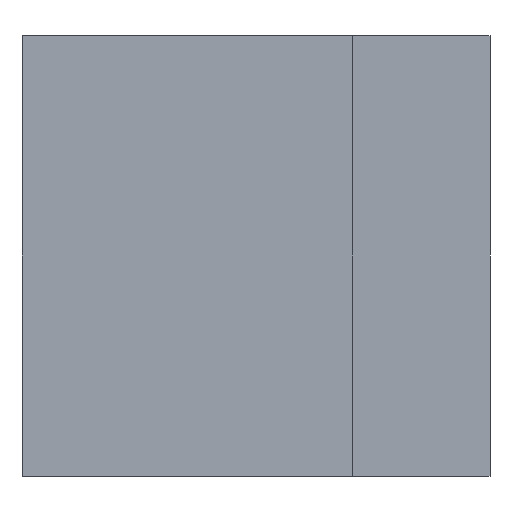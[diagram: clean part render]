
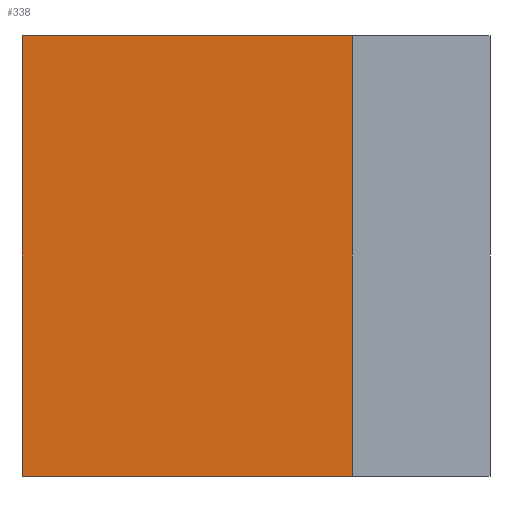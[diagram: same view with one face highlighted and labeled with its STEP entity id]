
A CAD part, front view. The second image highlights one B-rep face of the part: STEP entity #338.
In plain terms, the highlighted planar face has unit normal (0, -1, 0).
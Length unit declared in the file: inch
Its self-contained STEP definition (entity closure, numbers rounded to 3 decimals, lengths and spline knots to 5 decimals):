
#5 = VERTEX_POINT ( 'NONE', #291 ) ;
#12 = ORIENTED_EDGE ( 'NONE', *, *, #345, .T. ) ;
#14 = EDGE_LOOP ( 'NONE', ( #53, #255, #12, #387 ) ) ;
#21 = CARTESIAN_POINT ( 'NONE',  ( 0., 0., -1. ) ) ;
#44 = VERTEX_POINT ( 'NONE', #136 ) ;
#53 = ORIENTED_EDGE ( 'NONE', *, *, #58, .F. ) ;
#58 = EDGE_CURVE ( 'NONE', #5, #44, #259, .T. ) ;
#59 = LINE ( 'NONE', #251, #399 ) ;
#99 = CARTESIAN_POINT ( 'NONE',  ( 0., 0., -1. ) ) ;
#123 = DIRECTION ( 'NONE',  ( 1., 0., 0. ) ) ;
#124 = VERTEX_POINT ( 'NONE', #21 ) ;
#126 = CARTESIAN_POINT ( 'NONE',  ( 0., 0., -1. ) ) ;
#127 = PLANE ( 'NONE',  #334 ) ;
#136 = CARTESIAN_POINT ( 'NONE',  ( 0., 0., 0. ) ) ;
#152 = CARTESIAN_POINT ( 'NONE',  ( -0.75, 0., -1. ) ) ;
#156 = DIRECTION ( 'NONE',  ( 1., 0., 0. ) ) ;
#165 = VECTOR ( 'NONE', #270, 39.37008 ) ;
#184 = LINE ( 'NONE', #152, #165 ) ;
#233 = CARTESIAN_POINT ( 'NONE',  ( 0., 0., 0. ) ) ;
#251 = CARTESIAN_POINT ( 'NONE',  ( 0., 0., -1. ) ) ;
#255 = ORIENTED_EDGE ( 'NONE', *, *, #288, .F. ) ;
#259 = LINE ( 'NONE', #233, #373 ) ;
#270 = DIRECTION ( 'NONE',  ( 0., 0., 1. ) ) ;
#277 = FACE_OUTER_BOUND ( 'NONE', #14, .T. ) ;
#283 = VERTEX_POINT ( 'NONE', #329 ) ;
#285 = VECTOR ( 'NONE', #335, 39.37008 ) ;
#288 = EDGE_CURVE ( 'NONE', #283, #5, #184, .T. ) ;
#291 = CARTESIAN_POINT ( 'NONE',  ( -0.75, 0., 0. ) ) ;
#304 = LINE ( 'NONE', #126, #285 ) ;
#308 = DIRECTION ( 'NONE',  ( 0., -1., 0. ) ) ;
#326 = EDGE_CURVE ( 'NONE', #124, #44, #304, .T. ) ;
#329 = CARTESIAN_POINT ( 'NONE',  ( -0.75, 0., -1. ) ) ;
#334 = AXIS2_PLACEMENT_3D ( 'NONE', #99, #308, #375 ) ;
#335 = DIRECTION ( 'NONE',  ( 0., 0., 1. ) ) ;
#338 = ADVANCED_FACE ( 'NONE', ( #277 ), #127, .T. ) ;
#345 = EDGE_CURVE ( 'NONE', #283, #124, #59, .T. ) ;
#373 = VECTOR ( 'NONE', #123, 39.37008 ) ;
#375 = DIRECTION ( 'NONE',  ( 0., 0., -1. ) ) ;
#387 = ORIENTED_EDGE ( 'NONE', *, *, #326, .T. ) ;
#399 = VECTOR ( 'NONE', #156, 39.37008 ) ;
